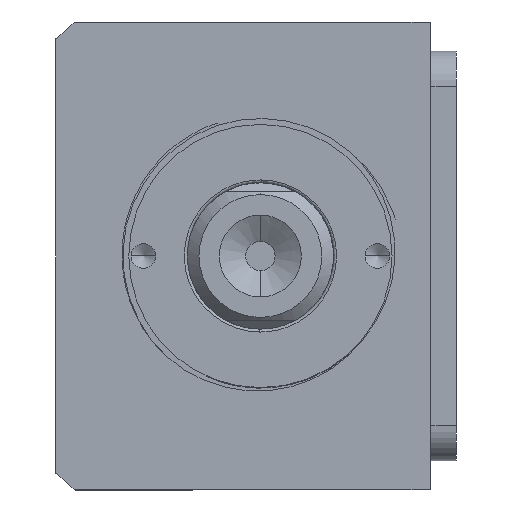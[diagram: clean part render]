
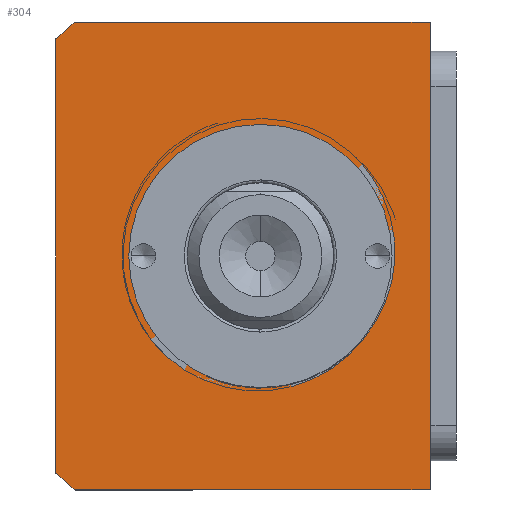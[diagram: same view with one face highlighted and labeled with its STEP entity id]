
A CAD part, front view. The second image highlights one B-rep face of the part: STEP entity #304.
In plain terms, the highlighted planar face has unit normal (0, -1, 0) as drawn and (0, 0, 1) by its records, which use the part's own axes.
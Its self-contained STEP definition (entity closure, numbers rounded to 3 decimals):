
#166 = CIRCLE ( 'NONE', #7709, 22.5 ) ;
#177 = DIRECTION ( 'NONE',  ( 1., 0., 0. ) ) ;
#304 = ADVANCED_FACE ( 'NONE', ( #1968, #10044 ), #5235, .T. ) ;
#403 = DIRECTION ( 'NONE',  ( 0., 0., 1. ) ) ;
#434 = ORIENTED_EDGE ( 'NONE', *, *, #3267, .T. ) ;
#698 = VERTEX_POINT ( 'NONE', #9333 ) ;
#718 = EDGE_CURVE ( 'NONE', #3042, #6908, #7017, .T. ) ;
#1510 = ORIENTED_EDGE ( 'NONE', *, *, #4085, .T. ) ;
#1524 = CARTESIAN_POINT ( 'NONE',  ( -40., -11.507, 95. ) ) ;
#1526 = CARTESIAN_POINT ( 'NONE',  ( 0., -40.507, 95. ) ) ;
#1782 = DIRECTION ( 'NONE',  ( 0., 0., 1. ) ) ;
#1968 = FACE_BOUND ( 'NONE', #9289, .T. ) ;
#2042 = ORIENTED_EDGE ( 'NONE', *, *, #6630, .T. ) ;
#2103 = AXIS2_PLACEMENT_3D ( 'NONE', #7142, #9943, #9476 ) ;
#2319 = DIRECTION ( 'NONE',  ( 1., 0., 0. ) ) ;
#2354 = DIRECTION ( 'NONE',  ( 0., 0., 1. ) ) ;
#2857 = VERTEX_POINT ( 'NONE', #7361 ) ;
#2984 = LINE ( 'NONE', #4477, #5431 ) ;
#3042 = VERTEX_POINT ( 'NONE', #4315 ) ;
#3059 = CARTESIAN_POINT ( 'NONE',  ( -37.094, -75.507, 95. ) ) ;
#3267 = EDGE_CURVE ( 'NONE', #698, #8741, #3384, .T. ) ;
#3384 = CIRCLE ( 'NONE', #6465, 51. ) ;
#3592 = EDGE_CURVE ( 'NONE', #8741, #9904, #6857, .T. ) ;
#3990 = CARTESIAN_POINT ( 'NONE',  ( -40., -11.507, 95. ) ) ;
#4075 = CARTESIAN_POINT ( 'NONE',  ( -40., -11.507, 95. ) ) ;
#4085 = EDGE_CURVE ( 'NONE', #9904, #2857, #5359, .T. ) ;
#4245 = ORIENTED_EDGE ( 'NONE', *, *, #718, .T. ) ;
#4315 = CARTESIAN_POINT ( 'NONE',  ( 40., -11.507, 95. ) ) ;
#4324 = VERTEX_POINT ( 'NONE', #7009 ) ;
#4341 = CARTESIAN_POINT ( 'NONE',  ( 22.5, -40.507, 95. ) ) ;
#4477 = CARTESIAN_POINT ( 'NONE',  ( 40., -11.507, 95. ) ) ;
#4761 = CIRCLE ( 'NONE', #10178, 22.5 ) ;
#4763 = VECTOR ( 'NONE', #177, 1000. ) ;
#4925 = VECTOR ( 'NONE', #5566, 1000. ) ;
#5107 = CARTESIAN_POINT ( 'NONE',  ( 0., -40.507, 95. ) ) ;
#5197 = ORIENTED_EDGE ( 'NONE', *, *, #8524, .T. ) ;
#5235 = PLANE ( 'NONE',  #2103 ) ;
#5266 = DIRECTION ( 'NONE',  ( 0., 1., 0. ) ) ;
#5359 = CIRCLE ( 'NONE', #5544, 51. ) ;
#5431 = VECTOR ( 'NONE', #5266, 1000. ) ;
#5438 = EDGE_LOOP ( 'NONE', ( #2042, #434, #6010, #1510, #5197, #4245 ) ) ;
#5544 = AXIS2_PLACEMENT_3D ( 'NONE', #6501, #1782, #7293 ) ;
#5566 = DIRECTION ( 'NONE',  ( -1., 0., 0. ) ) ;
#5900 = DIRECTION ( 'NONE',  ( 1., 0., 0. ) ) ;
#6010 = ORIENTED_EDGE ( 'NONE', *, *, #3592, .T. ) ;
#6069 = VECTOR ( 'NONE', #6242, 1000. ) ;
#6236 = EDGE_CURVE ( 'NONE', #7199, #4324, #166, .T. ) ;
#6242 = DIRECTION ( 'NONE',  ( 0., -1., 0. ) ) ;
#6314 = CARTESIAN_POINT ( 'NONE',  ( 37.094, -75.507, 95. ) ) ;
#6465 = AXIS2_PLACEMENT_3D ( 'NONE', #1526, #7039, #2319 ) ;
#6501 = CARTESIAN_POINT ( 'NONE',  ( 0., -40.507, 95. ) ) ;
#6630 = EDGE_CURVE ( 'NONE', #6908, #698, #9962, .T. ) ;
#6715 = ORIENTED_EDGE ( 'NONE', *, *, #9831, .F. ) ;
#6857 = LINE ( 'NONE', #8773, #4763 ) ;
#6908 = VERTEX_POINT ( 'NONE', #4075 ) ;
#7009 = CARTESIAN_POINT ( 'NONE',  ( -22.5, -40.507, 95. ) ) ;
#7017 = LINE ( 'NONE', #3990, #4925 ) ;
#7039 = DIRECTION ( 'NONE',  ( 0., 0., 1. ) ) ;
#7073 = CARTESIAN_POINT ( 'NONE',  ( 0., -40.507, 95. ) ) ;
#7142 = CARTESIAN_POINT ( 'NONE',  ( 0., 0., 95. ) ) ;
#7199 = VERTEX_POINT ( 'NONE', #4341 ) ;
#7293 = DIRECTION ( 'NONE',  ( 1., 0., 0. ) ) ;
#7361 = CARTESIAN_POINT ( 'NONE',  ( 40., -72.145, 95. ) ) ;
#7709 = AXIS2_PLACEMENT_3D ( 'NONE', #5107, #403, #5900 ) ;
#7858 = DIRECTION ( 'NONE',  ( 1., 0., 0. ) ) ;
#8524 = EDGE_CURVE ( 'NONE', #2857, #3042, #2984, .T. ) ;
#8741 = VERTEX_POINT ( 'NONE', #3059 ) ;
#8773 = CARTESIAN_POINT ( 'NONE',  ( -40., -75.507, 95. ) ) ;
#9283 = ORIENTED_EDGE ( 'NONE', *, *, #6236, .F. ) ;
#9289 = EDGE_LOOP ( 'NONE', ( #9283, #6715 ) ) ;
#9333 = CARTESIAN_POINT ( 'NONE',  ( -40., -72.145, 95. ) ) ;
#9476 = DIRECTION ( 'NONE',  ( 1., 0., 0. ) ) ;
#9831 = EDGE_CURVE ( 'NONE', #4324, #7199, #4761, .T. ) ;
#9904 = VERTEX_POINT ( 'NONE', #6314 ) ;
#9943 = DIRECTION ( 'NONE',  ( 0., 0., 1. ) ) ;
#9962 = LINE ( 'NONE', #1524, #6069 ) ;
#10044 = FACE_OUTER_BOUND ( 'NONE', #5438, .T. ) ;
#10178 = AXIS2_PLACEMENT_3D ( 'NONE', #7073, #2354, #7858 ) ;
